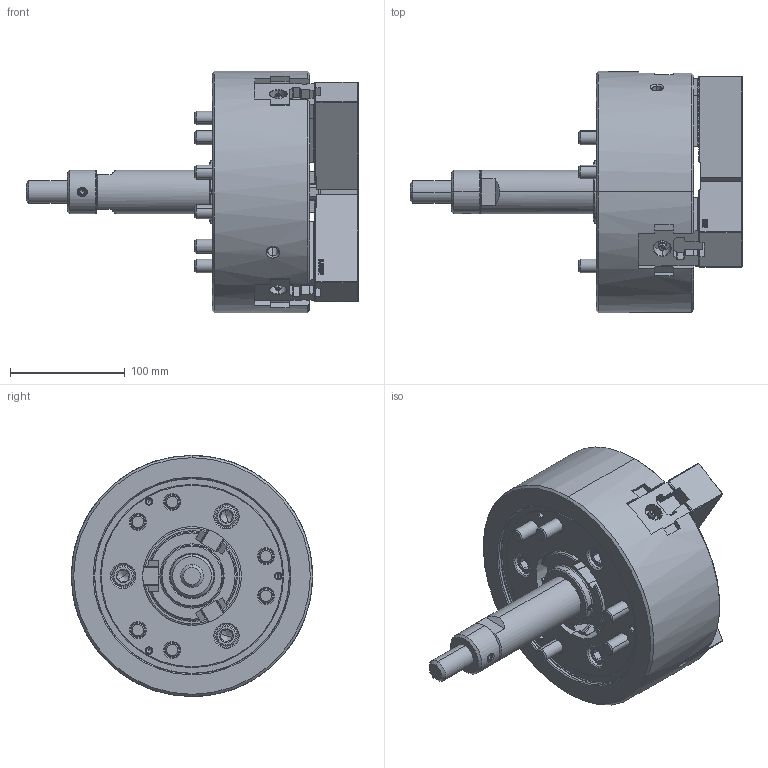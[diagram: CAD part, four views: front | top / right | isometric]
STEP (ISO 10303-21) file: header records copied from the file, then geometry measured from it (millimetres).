
FILE_DESCRIPTION (( 'STEP AP214' ), '1' );
FILE_NAME ('DT1_NL08_OUTSIDE_VIEW_OC.STEP', '2026-03-19T05:29:37', ( '' ), ( '' ), 'SwSTEP 2.0', 'SolidWorks 2022', '' );
FILE_SCHEMA (( 'AUTOMOTIVE_DESIGN' ));
Length unit declared in the file: millimetre
Products named in the file (11): DT1_NL08_OUTSIDE_VIEW_OC; DT1_NL08_DN^DT1_NL08; Copy of 61P310518^DT1_NL08; DT1_NL08_M12x35^DT1_NL08; DT1_NL08_DRAWSCREW^DT1_NL08; DT1_NL08_M5x12^DT1_NL08; DT1_NL08_SOFTJAW^DT1_NL08; DT1_NL08_M12x85^DT1_NL08; DT1_NL08_BASE^DT1_NL08; DT1_NL08_TNUT^DT1_NL08; DT1_NL08_COVER^DT1_NL08
Assembly tree (26 placements, depth 2):
  DT1_NL08_OUTSIDE_VIEW_OC
    DT1_NL08_SOFTJAW^DT1_NL08  x3
    DT1_NL08_TNUT^DT1_NL08  x3
    DT1_NL08_COVER^DT1_NL08
    DT1_NL08_DRAWSCREW^DT1_NL08
    Copy of 61P310518^DT1_NL08
    DT1_NL08_M12x85^DT1_NL08  x6
    DT1_NL08_M12x35^DT1_NL08  x6
    DT1_NL08_M5x12^DT1_NL08  x3
    DT1_NL08_DN^DT1_NL08
    DT1_NL08_BASE^DT1_NL08
Bounding box: 289 x 210 x 210 mm (x, y, z)
Volume: 3150547.2 mm3; surface area: 397295.9 mm2
Topology: 26 solids, 26 shells, 4793 faces, 13510 edges, 8840 vertices
Faces by surface type: plane 2725, cylinder 1149, cone 427, bspline 414, torus 72, sphere 6
Entity records: 109344 total; most frequent: CARTESIAN_POINT 33062, ORIENTED_EDGE 17408, DIRECTION 13469, EDGE_CURVE 8704, VECTOR 5889, LINE 5889, VERTEX_POINT 5700, AXIS2_PLACEMENT_3D 3790
